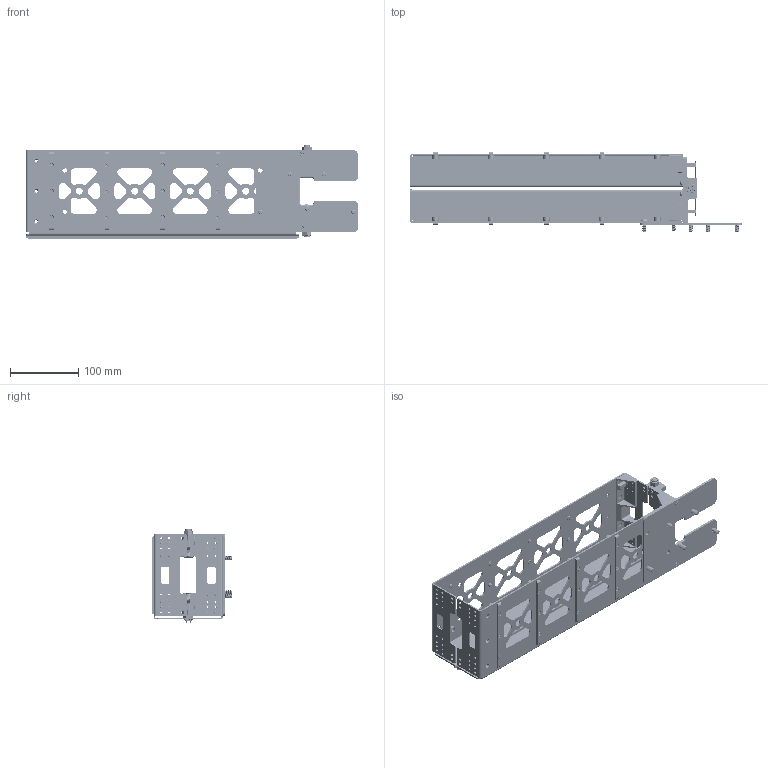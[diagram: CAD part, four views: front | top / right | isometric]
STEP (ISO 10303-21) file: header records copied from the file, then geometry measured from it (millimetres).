
FILE_DESCRIPTION (( 'STEP AP214' ), '1' );
FILE_NAME ('710-02069-A DCSA 11 Panel - Stowed.STEP', '2019-02-05T23:57:09', ( '' ), ( '' ), 'SwSTEP 2.0', 'SolidWorks 2014', '' );
FILE_SCHEMA (( 'AUTOMOTIVE_DESIGN' ));
Length unit declared in the file: inch
Products named in the file (2): 710-02069-A DCSA 11 Panel - Stowed
Bounding box: 486.3 x 118.11 x 136.27 mm (x, y, z)
Volume: 445402.6 mm3; surface area: 359274.1 mm2
Topology: 12 solids, 328 shells, 10105 faces, 22773 edges, 12999 vertices
Faces by surface type: cone 4542, plane 3014, cylinder 2276, torus 148, bspline 89, sphere 36
Entity records: 342531 total; most frequent: CARTESIAN_POINT 117495, DIRECTION 49011, ORIENTED_EDGE 45474, EDGE_CURVE 22737, AXIS2_PLACEMENT_3D 18717, VERTEX_POINT 12999, VECTOR 11577, LINE 11577
